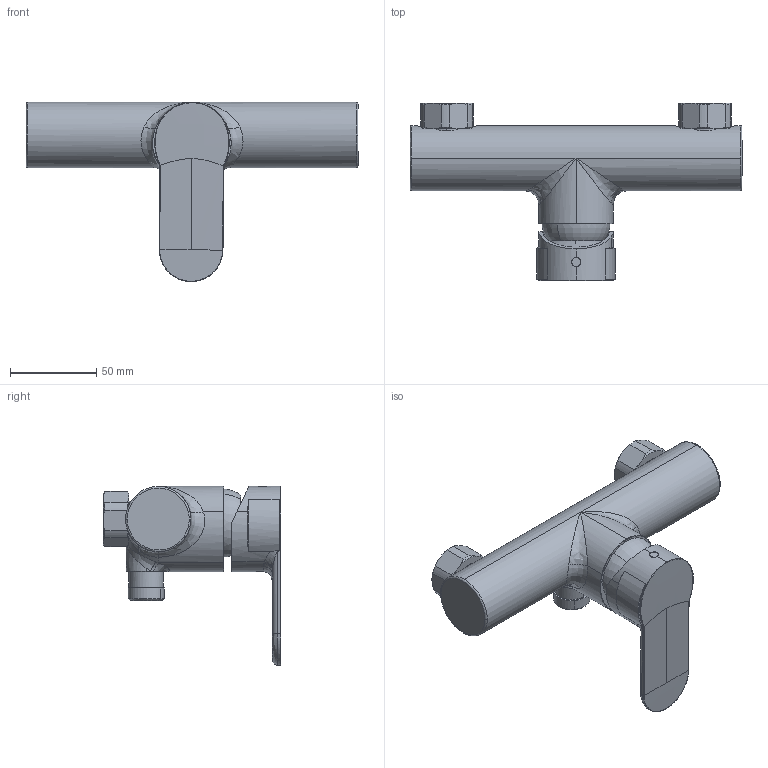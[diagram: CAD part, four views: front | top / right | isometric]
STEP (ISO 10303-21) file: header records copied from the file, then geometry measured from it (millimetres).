
FILE_DESCRIPTION (( 'STEP AP203' ), '1' );
FILE_NAME ('AADC015CR x architetti.STEP', '2023-10-26T13:02:27', ( '' ), ( '' ), 'SwSTEP 2.0', 'SolidWorks 2020', '' );
FILE_SCHEMA (( 'CONFIG_CONTROL_DESIGN' ));
Length unit declared in the file: millimetre
Products named in the file (1): AADC015CR x architetti
Bounding box: 193 x 103.21 x 104.25 mm (x, y, z)
Surface area: 49454.1 mm2 (no closed solid volume)
Topology: 0 solids, 4 shells, 224 faces, 596 edges, 374 vertices
Faces by surface type: cylinder 69, bspline 66, cone 45, plane 40, torus 4
Entity records: 16130 total; most frequent: CARTESIAN_POINT 11122, ORIENTED_EDGE 1172, DIRECTION 846, EDGE_CURVE 589, VERTEX_POINT 374, AXIS2_PLACEMENT_3D 355, EDGE_LOOP 234, B_SPLINE_CURVE_WITH_KNOTS 232
